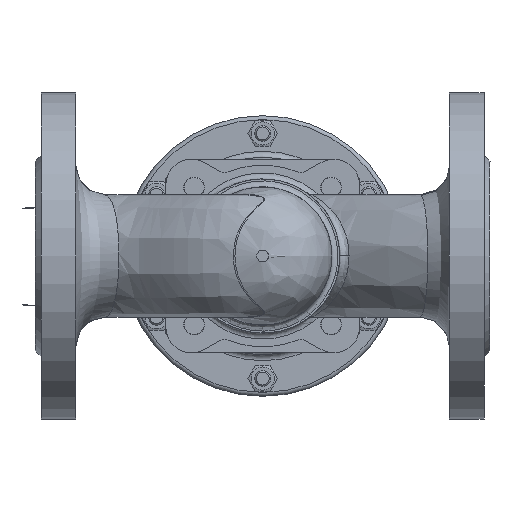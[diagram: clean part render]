
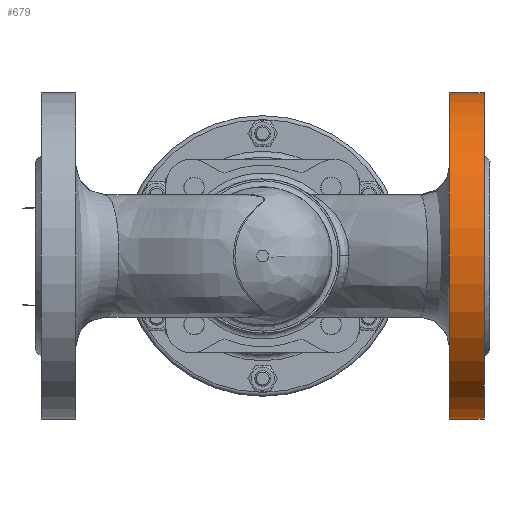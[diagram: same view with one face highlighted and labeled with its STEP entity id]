
A CAD part, front view. The second image highlights one B-rep face of the part: STEP entity #679.
In plain terms, the highlighted cylindrical face has radius 82.5 mm (diameter 165 mm), a full revolution.
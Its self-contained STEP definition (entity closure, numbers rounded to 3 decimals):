
#679=ADVANCED_FACE('',(#18158),#18160,.T.);
#18158=FACE_OUTER_BOUND('',#18159,.T.);
#18159=EDGE_LOOP('',(#25367,#25368,#25369,#25370));
#18160=CYLINDRICAL_SURFACE('',#18161,82.5);
#18161=AXIS2_PLACEMENT_3D('',#18162,#18163,#18164);
#18162=CARTESIAN_POINT('',(209.5,82.568,-82.5));
#18163=DIRECTION('',(-1.,0.,0.));
#18164=DIRECTION('',(0.,0.,-1.));
#25367=ORIENTED_EDGE('',*,*,#28841,.F.);
#25368=ORIENTED_EDGE('',*,*,#28824,.F.);
#25369=ORIENTED_EDGE('',*,*,#28841,.T.);
#25370=ORIENTED_EDGE('',*,*,#28842,.T.);
#28824=EDGE_CURVE('',#31203,#31203,#31204,.T.);
#28841=EDGE_CURVE('',#31203,#31232,#31233,.T.);
#28842=EDGE_CURVE('',#31232,#31232,#31234,.T.);
#31203=VERTEX_POINT('',#49150);
#31204=CIRCLE('',#49151,82.5);
#31232=VERTEX_POINT('',#49559);
#31233=LINE('',#49560,#49561);
#31234=CIRCLE('',#49563,82.5);
#49150=CARTESIAN_POINT('',(209.5,82.568,-165.));
#49151=AXIS2_PLACEMENT_3D('',#49152,#49153,#49154);
#49152=CARTESIAN_POINT('',(209.5,82.568,-82.5));
#49153=DIRECTION('',(-1.,0.,0.));
#49154=DIRECTION('',(0.,0.,1.));
#49559=CARTESIAN_POINT('',(227.,82.568,-165.));
#49560=CARTESIAN_POINT('',(209.5,82.568,-165.));
#49561=VECTOR('',#49562,1.);
#49562=DIRECTION('',(1.,0.,0.));
#49563=AXIS2_PLACEMENT_3D('',#49564,#49565,#49566);
#49564=CARTESIAN_POINT('',(227.,82.568,-82.5));
#49565=DIRECTION('',(-1.,0.,0.));
#49566=DIRECTION('',(0.,0.,1.));
